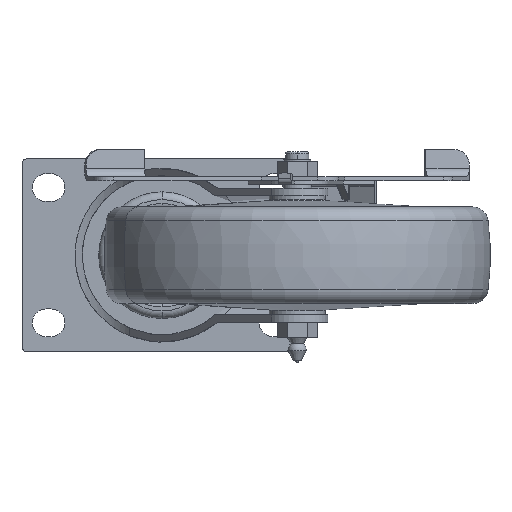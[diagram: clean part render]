
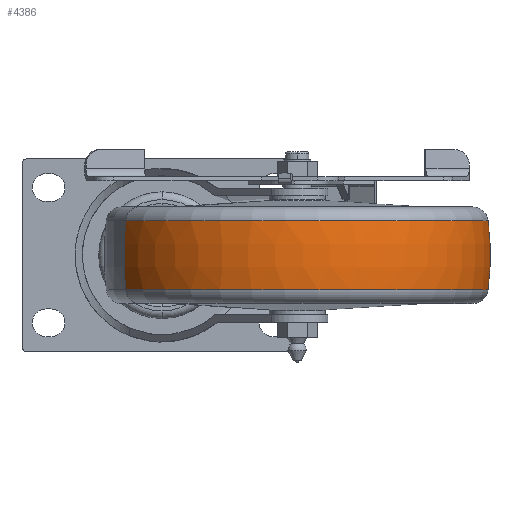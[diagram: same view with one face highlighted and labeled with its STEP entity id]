
A CAD part, front view. The second image highlights one B-rep face of the part: STEP entity #4386.
In plain terms, the highlighted toroidal (fillet/blend) face has major radius 42.869 mm and minor radius 106.369 mm.
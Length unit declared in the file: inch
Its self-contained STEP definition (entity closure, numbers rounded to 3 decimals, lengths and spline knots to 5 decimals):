
#160 = EDGE_CURVE ( 'NONE', #10906, #2223, #2124, .T. ) ;
#368 = DIRECTION ( 'NONE',  ( 0., 0., 1. ) ) ;
#856 = DIRECTION ( 'NONE',  ( 0.442, -0.897, 0. ) ) ;
#1445 = CIRCLE ( 'NONE', #6281, 2.47615 ) ;
#1574 = DIRECTION ( 'NONE',  ( -0.897, -0.442, 0. ) ) ;
#1991 = ORIENTED_EDGE ( 'NONE', *, *, #17699, .F. ) ;
#2124 = CIRCLE ( 'NONE', #17045, 4.18776 ) ;
#2210 = CARTESIAN_POINT ( 'NONE',  ( -0.47098, -6.07479, 0.44632 ) ) ;
#2223 = VERTEX_POINT ( 'NONE', #17401 ) ;
#2372 = ORIENTED_EDGE ( 'NONE', *, *, #16400, .T. ) ;
#3367 = DIRECTION ( 'NONE',  ( -0.897, -0.442, 0. ) ) ;
#3449 = DIRECTION ( 'NONE',  ( 0.897, 0.442, 0. ) ) ;
#3492 = CIRCLE ( 'NONE', #17143, 2.47615 ) ;
#3630 = AXIS2_PLACEMENT_3D ( 'NONE', #6835, #21057, #3367 ) ;
#3987 = TOROIDAL_SURFACE ( 'NONE', #4255, -1.68776, 4.18776 ) ;
#4062 = CARTESIAN_POINT ( 'NONE',  ( -0.47098, -6.07479, -0.44632 ) ) ;
#4255 = AXIS2_PLACEMENT_3D ( 'NONE', #19154, #8622, #3449 ) ;
#4386 = ADVANCED_FACE ( 'NONE', ( #21066 ), #3987, .T. ) ;
#6025 = CARTESIAN_POINT ( 'NONE',  ( 1.75, -4.98, -0.44632 ) ) ;
#6281 = AXIS2_PLACEMENT_3D ( 'NONE', #6025, #368, #14803 ) ;
#6835 = CARTESIAN_POINT ( 'NONE',  ( 3.26383, -4.23378, 0. ) ) ;
#7904 = DIRECTION ( 'NONE',  ( 0.897, 0.442, 0. ) ) ;
#8537 = CIRCLE ( 'NONE', #3630, 4.18776 ) ;
#8622 = DIRECTION ( 'NONE',  ( 0., 0., 1. ) ) ;
#8784 = ORIENTED_EDGE ( 'NONE', *, *, #160, .T. ) ;
#9003 = DIRECTION ( 'NONE',  ( 0., 0., -1. ) ) ;
#9689 = CARTESIAN_POINT ( 'NONE',  ( 0.23617, -5.72622, 0. ) ) ;
#10906 = VERTEX_POINT ( 'NONE', #21220 ) ;
#12793 = VERTEX_POINT ( 'NONE', #2210 ) ;
#14803 = DIRECTION ( 'NONE',  ( 0.897, 0.442, 0. ) ) ;
#15383 = VERTEX_POINT ( 'NONE', #4062 ) ;
#15769 = CARTESIAN_POINT ( 'NONE',  ( 1.75, -4.98, 0.44632 ) ) ;
#16400 = EDGE_CURVE ( 'NONE', #15383, #10906, #1445, .T. ) ;
#17045 = AXIS2_PLACEMENT_3D ( 'NONE', #9689, #856, #7904 ) ;
#17143 = AXIS2_PLACEMENT_3D ( 'NONE', #15769, #9003, #1574 ) ;
#17401 = CARTESIAN_POINT ( 'NONE',  ( 3.97098, -3.88521, 0.44632 ) ) ;
#17699 = EDGE_CURVE ( 'NONE', #15383, #12793, #8537, .T. ) ;
#18475 = ORIENTED_EDGE ( 'NONE', *, *, #20631, .T. ) ;
#18875 = EDGE_LOOP ( 'NONE', ( #1991, #2372, #8784, #18475 ) ) ;
#19154 = CARTESIAN_POINT ( 'NONE',  ( 1.75, -4.98, 0. ) ) ;
#20631 = EDGE_CURVE ( 'NONE', #2223, #12793, #3492, .T. ) ;
#21057 = DIRECTION ( 'NONE',  ( -0.442, 0.897, 0. ) ) ;
#21066 = FACE_OUTER_BOUND ( 'NONE', #18875, .T. ) ;
#21220 = CARTESIAN_POINT ( 'NONE',  ( 3.97098, -3.88521, -0.44632 ) ) ;
